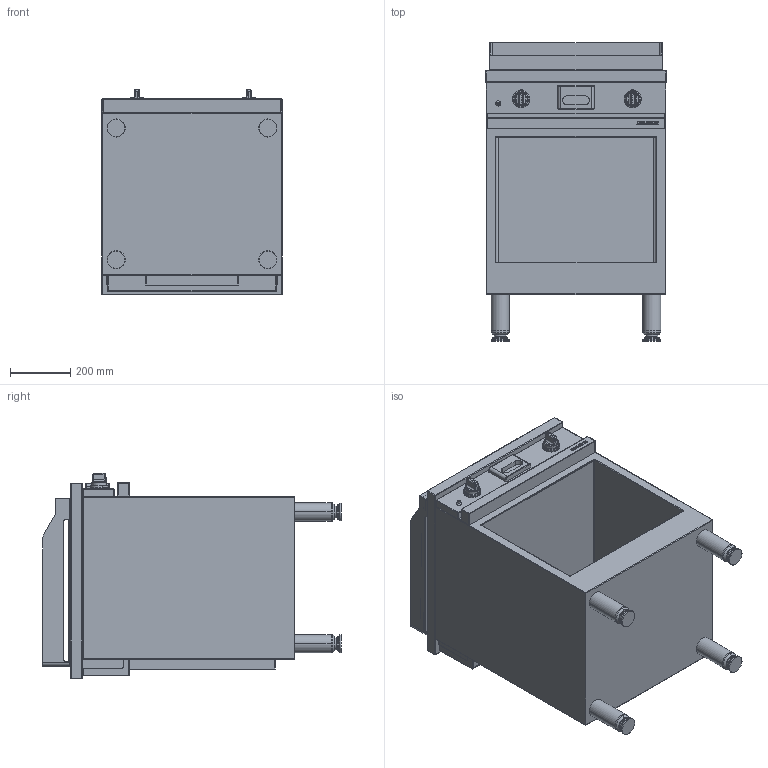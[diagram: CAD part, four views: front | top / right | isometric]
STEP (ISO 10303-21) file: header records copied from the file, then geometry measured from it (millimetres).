
FILE_DESCRIPTION((''),'2;1');
FILE_NAME('CMG610SRKC_EXPORT_STEP_ASM','2017-11-22T',('r.avril'),(''),'PRO/ENGINEER BY PARAMETRIC TECHNOLOGY CORPORATION, 2014200','PRO/ENGINEER BY PARAMETRIC TECHNOLOGY CORPORATION, 2014200','');
FILE_SCHEMA(('AP203_CONFIGURATION_CONTROLLED_3D_DESIGN_OF_MECHANICAL_PARTS_AND_ASSEMBLIES_MIM_LF { 1 0 10303 403 2 1 2 }'));
Length unit declared in the file: millimetre
Products named in the file (11): MODULES_AMB_600_EXPORT_STEP; TABLE_610_GRILLADE; TABLE_610_GRILLADE_ASM; ALLUMEUR_EXPORT_STEP; TIROIR_GRILLADE_EXPORT_STEP; MANETTE_AMB_EXPORT_STEP; CEINTURE_PLAQUE_GRILLADE_600; 50289000; 50293100; 65070009_ASM; CMG610SRKC_EXPORT_STEP_ASM
Assembly tree (11 placements, depth 3):
  CMG610SRKC_EXPORT_STEP_ASM
    MODULES_AMB_600_EXPORT_STEP
    TABLE_610_GRILLADE_ASM
      TABLE_610_GRILLADE
    ALLUMEUR_EXPORT_STEP
    TIROIR_GRILLADE_EXPORT_STEP
    MANETTE_AMB_EXPORT_STEP  x2
    65070009_ASM
      CEINTURE_PLAQUE_GRILLADE_600
      50289000
      50293100
Bounding box: 600 x 992.34 x 682.5 mm (x, y, z)
Volume: 82400311.1 mm3; surface area: 6224252.5 mm2
Topology: 17 solids, 43 shells, 927 faces, 2947 edges, 2328 vertices
Faces by surface type: plane 316, cylinder 273, cone 170, torus 104, sphere 40, bspline 24
Entity records: 40435 total; most frequent: CARTESIAN_POINT 10388, DIRECTION 4945, ORIENTED_EDGE 4692, EDGE_CURVE 2587, VERTEX_POINT 1785, AXIS2_PLACEMENT_3D 1743, VECTOR 1426, LINE 1426
